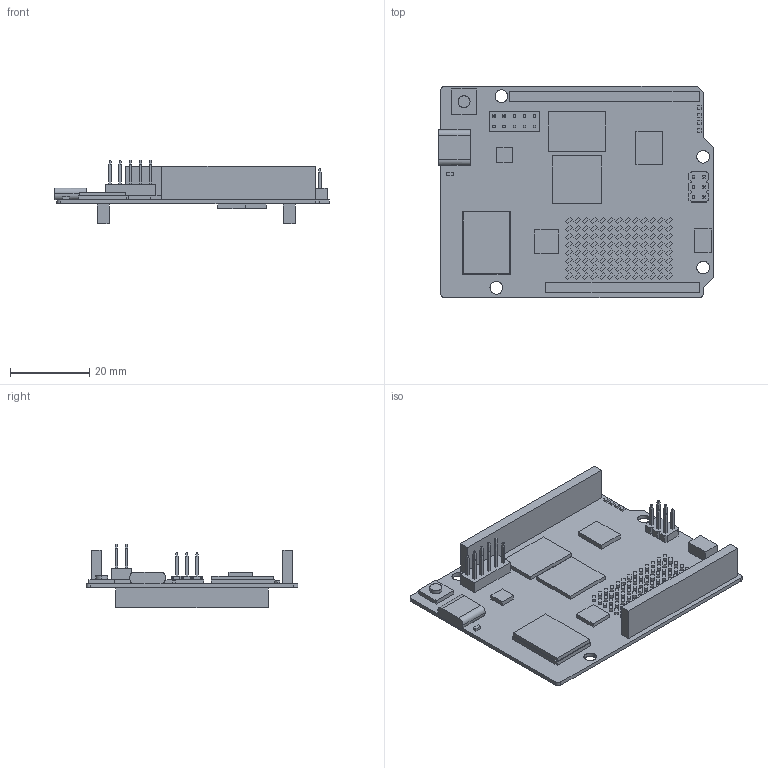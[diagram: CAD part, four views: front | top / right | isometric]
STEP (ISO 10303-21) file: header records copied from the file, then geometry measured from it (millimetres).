
FILE_DESCRIPTION(/* description */ (''),/* implementation_level */ '2;1');
FILE_NAME(/* name */ 'UNO Q simplified',/* time_stamp */ '2025-08-27T16:33:18+02:00',/* author */ (''),/* organization */ (''),/* preprocessor_version */ 'ST-DEVELOPER v15',/* originating_system */ '',/* authorisation */ '');
FILE_SCHEMA (('AUTOMOTIVE_DESIGN'));
Length unit declared in the file: millimetre
Products named in the file (1): Document
Bounding box: 69.1 x 53.34 x 16 mm (x, y, z)
Volume: 8297.5 mm3; surface area: 14718.6 mm2
Topology: 128 solids, 128 shells, 958 faces, 1993 edges, 1308 vertices
Faces by surface type: plane 867, bspline 91
Entity records: 23183 total; most frequent: CARTESIAN_POINT 6880, ORIENTED_EDGE 3982, EDGE_CURVE 1991, B_SPLINE_CURVE_WITH_KNOTS 1971, VERTEX_POINT 1306, EDGE_LOOP 983, ADVANCED_FACE 958, FACE_OUTER_BOUND 958
